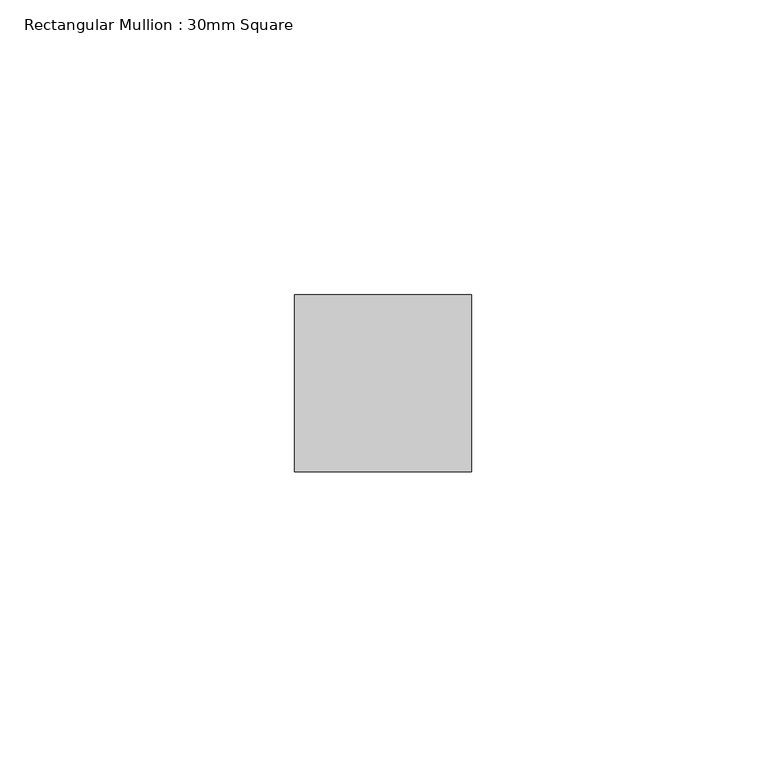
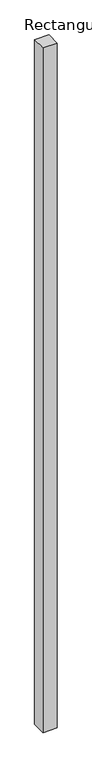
"""IFC4 building model written with IfcOpenShell, lengths in millimetres: member geometry, Rectangular Mullion : 30mm Square."""

import ifcopenshell
import ifcopenshell.guid

model = None  # the IFC model being written
_history = None  # IfcOwnerHistory: only IFC2X3 demands one
_inside = {}  # id of a spatial element -> (the spatial element, [elements in it])
_under = {}  # id of a project, library or spatial element -> (it, [spatial elements below it])
_declared = {}  # id of a project -> (the project, [libraries it declares])
_typed = {}  # id of a type object -> (the type object, [elements of that type])
_made_of = {}  # id of a material, layer set ... -> (it, [elements and type objects made of it])


def new_model(schema):
    """Start an empty IFC model of exactly this schema.

    Asked for "IFC4X3", IfcOpenShell would pick the latest addendum, in which some entities
    have other attributes; the version numbers below select the first issue.
    IFC2X3 requires an IfcOwnerHistory on every rooted entity: one is made here for all.
    """
    global model, _history
    if schema == "IFC4X3":
        model = ifcopenshell.file(schema_version=(4, 3, 0, 0))
    else:
        model = ifcopenshell.file(schema=schema)
    _inside.clear()
    _under.clear()
    _declared.clear()
    _typed.clear()
    _made_of.clear()
    _history = None
    if model.schema == "IFC2X3":
        org = make("IfcOrganization", Name="unknown")
        user = make(
            "IfcPersonAndOrganization",
            ThePerson=make("IfcPerson", FamilyName="unknown"),
            TheOrganization=org,
        )
        app = make(
            "IfcApplication",
            ApplicationDeveloper=org,
            Version="unknown",
            ApplicationFullName="unknown",
            ApplicationIdentifier="unknown",
        )
        _history = make(
            "IfcOwnerHistory",
            OwningUser=user,
            OwningApplication=app,
            ChangeAction="ADDED",
            CreationDate=0,
        )
    return model


def make(cls, **values):
    """One entity of the class cls with the attributes given. An attribute that is None is left unset."""
    return model.create_entity(
        cls, **{name: value for name, value in values.items() if value is not None}
    )


def rooted(cls, **values):
    """An entity with a GlobalId (a new one), such as an element, a storey or a relation."""
    return make(cls, GlobalId=ifcopenshell.guid.new(), OwnerHistory=_history, **values)


def si_unit(unit_type, name, prefix=None):
    """IfcSIUnit, for example si_unit("LENGTHUNIT", "METRE", prefix="MILLI")."""
    return make("IfcSIUnit", UnitType=unit_type, Prefix=prefix, Name=name)


def assignment(units):
    """IfcUnitAssignment: the units of a project."""
    return None if units is None else make("IfcUnitAssignment", Units=units)


def point(xyz):
    """IfcCartesianPoint."""
    return None if xyz is None else make("IfcCartesianPoint", Coordinates=xyz)


def direction(xyz):
    """IfcDirection."""
    return None if xyz is None else make("IfcDirection", DirectionRatios=xyz)


def frame(location, z_axis=None, x_axis=None):
    """IfcAxis2Placement3D, a coordinate frame: its origin and axes. An axis left out is left unset."""
    return make(
        "IfcAxis2Placement3D",
        Location=point(location),
        Axis=direction(z_axis),
        RefDirection=direction(x_axis),
    )


def origin():
    """The frame at (0, 0, 0) with its axes left unset."""
    return frame((0.0, 0.0, 0.0))


def place(relative_to, where):
    """IfcLocalPlacement: puts the frame where relative to a parent placement (None: the world)."""
    return make(
        "IfcLocalPlacement", PlacementRelTo=relative_to, RelativePlacement=where
    )


def context(
    kind, dimensions, precision=None, world=None, true_north=None, identifier=None
):
    """IfcGeometricRepresentationContext, for example the 3D "Model" context."""
    return make(
        "IfcGeometricRepresentationContext",
        ContextIdentifier=identifier,
        ContextType=kind,
        CoordinateSpaceDimension=dimensions,
        Precision=precision,
        WorldCoordinateSystem=world,
        TrueNorth=true_north,
    )


def project(units=None, contexts=None):
    """IfcProject with its units and contexts."""
    return rooted(
        "IfcProject",
        Name="project",
        RepresentationContexts=contexts,
        UnitsInContext=assignment(units),
    )


def spatial(cls, under=None, at=None, **own):
    """A site, building, storey or space (cls), placed at a placement, below another one or the project."""
    s = rooted(cls, ObjectPlacement=at, **own)
    if under is not None:
        _under.setdefault(under.id(), (under, []))[1].append(s)
    return s


def polyline(points):
    """IfcPolyline through the points."""
    return make("IfcPolyline", Points=[point(p) for p in points])


def outline(outer, holes=None, kind="AREA"):
    """IfcArbitraryClosedProfileDef: a profile drawn as a closed curve; with holes, ...WithVoids."""
    if holes is None:
        return make("IfcArbitraryClosedProfileDef", ProfileType=kind, OuterCurve=outer)
    return make(
        "IfcArbitraryProfileDefWithVoids",
        ProfileType=kind,
        OuterCurve=outer,
        InnerCurves=holes,
    )


def extrude(swept, where, along, depth):
    """IfcExtrudedAreaSolid: the profile swept, set in the frame where, extruded along a direction by depth."""
    return make(
        "IfcExtrudedAreaSolid",
        SweptArea=swept,
        Position=where,
        ExtrudedDirection=direction(along),
        Depth=depth,
    )


def shape(context_of_items, identifier, shape_type, items):
    """IfcShapeRepresentation: the items that make up one representation, for example the "Body"."""
    return make(
        "IfcShapeRepresentation",
        ContextOfItems=context_of_items,
        RepresentationIdentifier=identifier,
        RepresentationType=shape_type,
        Items=items,
    )


def source(mapping_origin, context_of_items, identifier, shape_type, items):
    """IfcRepresentationMap: a shape defined once, which mapped items show again and again."""
    return make(
        "IfcRepresentationMap",
        MappingOrigin=mapping_origin,
        MappedRepresentation=shape(context_of_items, identifier, shape_type, items),
    )


def transform(
    local_origin,
    x_axis=None,
    y_axis=None,
    z_axis=None,
    scale=None,
    scale2=None,
    scale3=None,
    uniform=True,
):
    """IfcCartesianTransformationOperator3D, or its non-uniform kind. x_axis, y_axis, z_axis: its Axis1, 2, 3."""
    if uniform:
        return make(
            "IfcCartesianTransformationOperator3D",
            Axis1=direction(x_axis),
            Axis2=direction(y_axis),
            LocalOrigin=point(local_origin),
            Scale=scale,
            Axis3=direction(z_axis),
        )
    return make(
        "IfcCartesianTransformationOperator3DnonUniform",
        Axis1=direction(x_axis),
        Axis2=direction(y_axis),
        LocalOrigin=point(local_origin),
        Scale=scale,
        Axis3=direction(z_axis),
        Scale2=scale2,
        Scale3=scale3,
    )


def mapped(mapping_source, mapping_target):
    """IfcMappedItem: shows the shape of a source again, moved by a transform."""
    return make(
        "IfcMappedItem", MappingSource=mapping_source, MappingTarget=mapping_target
    )


def made_of(thing, what):
    """Note that an element or type object is made of a material, layer set ...; save() writes the relation."""
    if what is not None:
        _made_of.setdefault(what.id(), (what, []))[1].append(thing)
    return thing


def element(
    cls,
    number,
    at=None,
    inside=None,
    cuts=None,
    type_object=None,
    material=None,
    context=None,
    identifier="Body",
    shape_type=None,
    held_by="IfcProductDefinitionShape",
    body=None,
    shapes=None,
    **own,
):
    """One element of the class cls, such as IfcWall. Its Tag is "e" and its number.

    at: its placement. inside: the storey or other place that contains it. cuts: it is an
    opening in that element (IfcRelVoidsElement). A single representation is given by context,
    identifier, shape_type and body (its items); several are given by shapes. held_by: the class
    of the entity that holds the representations. save() writes the other relations.
    """
    e = rooted(cls, Tag="e%d" % number, ObjectPlacement=at, **own)
    if body is not None:
        shapes = [shape(context, identifier, shape_type, body)]
    if shapes is not None:
        e.Representation = make(held_by, Representations=shapes)
    if inside is not None:
        _inside.setdefault(inside.id(), (inside, []))[1].append(e)
    if cuts is not None:
        rooted(
            "IfcRelVoidsElement", RelatingBuildingElement=cuts, RelatedOpeningElement=e
        )
    if type_object is not None:
        _typed.setdefault(type_object.id(), (type_object, []))[1].append(e)
    return made_of(e, material)


def aggregate(whole, parts):
    """IfcRelAggregates: a whole, such as a stair, and the parts it consists of."""
    return rooted("IfcRelAggregates", RelatingObject=whole, RelatedObjects=parts)


def save(model, path):
    """Write the relations noted so far, then the file.

    IfcRelAggregates (storeys below a building ...), IfcRelContainedInSpatialStructure (elements
    in a storey), IfcRelDefinesByType, IfcRelAssociatesMaterial and IfcRelDeclares: one each for
    every whole, place, type object, material and project.
    """
    for whole, parts in _under.values():
        aggregate(whole, parts)
    for where, things in _inside.values():
        rooted(
            "IfcRelContainedInSpatialStructure",
            RelatedElements=things,
            RelatingStructure=where,
        )
    for kind, things in _typed.values():
        rooted("IfcRelDefinesByType", RelatedObjects=things, RelatingType=kind)
    for what, things in _made_of.values():
        rooted("IfcRelAssociatesMaterial", RelatedObjects=things, RelatingMaterial=what)
    for by, libraries in _declared.values():
        rooted("IfcRelDeclares", RelatingContext=by, RelatedDefinitions=libraries)
    model.write(path)


def rectangular_mullion_30mm_square_d98c7422(model_context):
    return source(origin(), model_context, "Body", "SweptSolid", [
        extrude(outline(polyline([(0.0, 15.0), (0.0, -15.0), (-30.0, -15.0), (-30.0, 15.0), (0.0, 15.0)])), frame((0.0, 0.0, -1540.0), z_axis=(0.0, 0.0, 1.0), x_axis=(1.0, 0.0, 0.0)), (0.0, 0.0, 1.0), 1540.0),
    ])


if __name__ == "__main__":
    model = new_model("IFC4")
    model_context = context("Model", 3, world=origin())
    ifc_project = project(units=[si_unit("LENGTHUNIT", "METRE", prefix="MILLI")], contexts=[model_context])
    site = spatial("IfcSite", under=ifc_project)
    building = spatial("IfcBuilding", under=site)
    placement = place(None, origin())
    rectangular_mullion_30mm_square_shape = rectangular_mullion_30mm_square_d98c7422(model_context)
    element("IfcMember", 1, ObjectType="Rectangular Mullion : 30mm Square", at=placement, inside=building, context=model_context, shape_type="MappedRepresentation", body=[
        mapped(rectangular_mullion_30mm_square_shape, transform((0.0, 0.0, 0.0), x_axis=(1.0, 0.0, 0.0), y_axis=(0.0, 1.0, 0.0), z_axis=(0.0, 0.0, 1.0))),
    ])
    save(model, "model.ifc")
